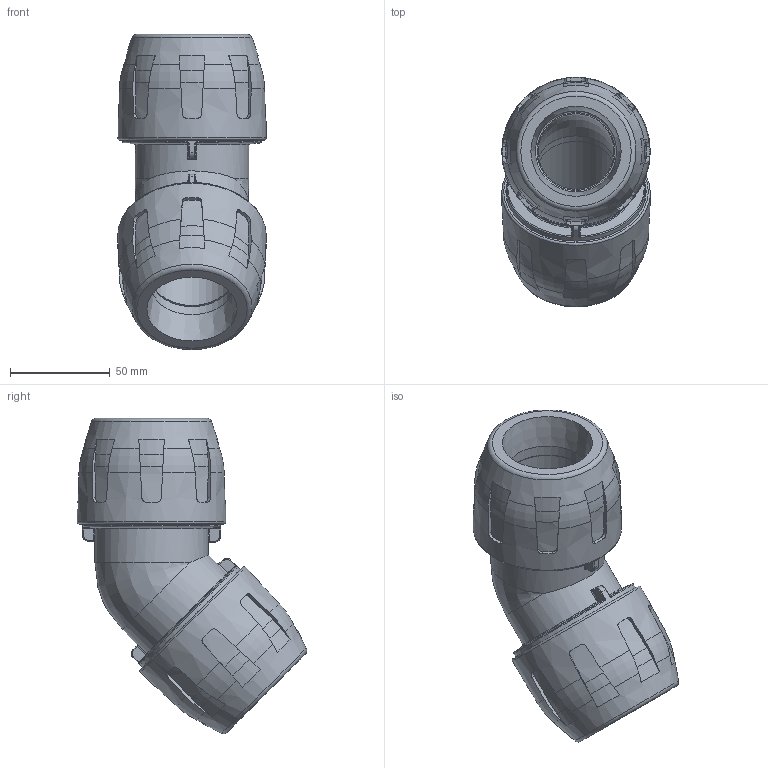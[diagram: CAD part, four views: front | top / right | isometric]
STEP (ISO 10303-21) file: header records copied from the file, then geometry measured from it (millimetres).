
FILE_DESCRIPTION( ( 'STEP AP214' ), '1' );
FILE_NAME( ' ', ' ', ( ' ' ), ( ' ' ), 'PSStep 11.0', 'VISI 17.0', ' ' );
FILE_SCHEMA( ( 'AUTOMOTIVE_DESIGN { 1 0 10303 214 1 1 1 1 }' ) );
Length unit declared in the file: millimetre
Products named in the file (3): 1; 2; 3
Bounding box: 74.56 x 115.14 x 158.17 mm (x, y, z)
Volume: 356369.6 mm3; surface area: 97161.4 mm2
Topology: 3 solids, 3 shells, 507 faces, 1396 edges, 892 vertices
Faces by surface type: plane 224, cone 94, cylinder 78, bspline 73, torus 33, sphere 5
Full cylindrical faces by diameter (mm): 38 x2, 40.7 x2, 40.9 x2, 57 x2, 58.9 x2, 59.8 x4, 64.1 x2, 65.4 x2, 69.4 x2, 70.4 x2
Entity records: 26959 total; most frequent: CARTESIAN_POINT 11171, ORIENTED_EDGE 2610, DIRECTION 2234, EDGE_CURVE 1305, AXIS2_PLACEMENT_3D 965, VERTEX_POINT 866, EDGE_LOOP 575, FACE_OUTER_BOUND 545
